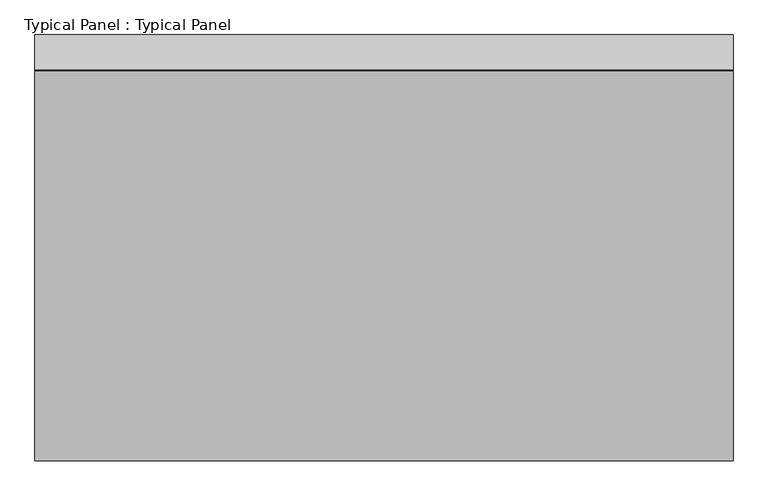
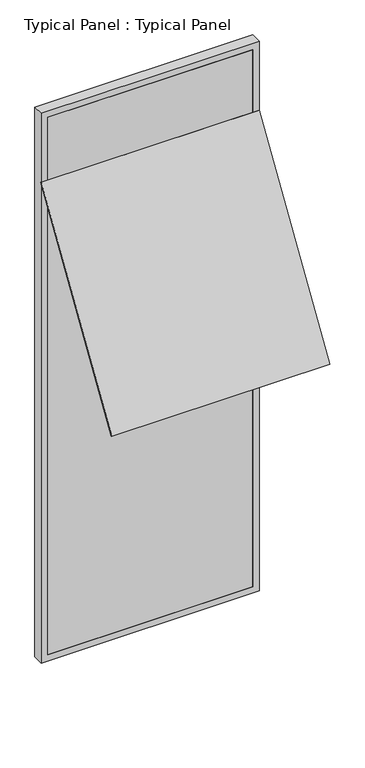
"""IFC4 building model written with IfcOpenShell, lengths in millimetres: plate geometry, Typical Panel : Typical Panel."""

from ifc_helpers import new_model, si_unit, frame, origin, place, context, project, spatial, polyline, outline, extrude, source, transform, mapped, element, save


def typical_panel_typical_panel_1dacabfa(model_context):
    return source(origin(), model_context, "Body", "SweptSolid", [
        extrude(outline(polyline([(0.0, -10.0000001), (0.0, 0.0), (1500.0, 0.0), (1500.0, -10.0000001), (0.0, -10.0000001)])), frame((750.0, -842.2724375, 2160.0840081), z_axis=(0.0, 0.5299192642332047, 0.8480480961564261), x_axis=(-1.0, 0.0, 0.0)), (0.0, 0.0, 1.0), 1580.0),
        extrude(outline(polyline([(0.0, -750.0), (0.0, 750.0), (4000.0, 750.0), (4000.0, -750.0), (0.0, -750.0)]), holes=[polyline([(45.0, 705.0), (45.0, -705.0), (3955.0, -705.0), (3955.0, 705.0), (45.0, 705.0)])]), frame((0.0, -1.5797986, 0.0), z_axis=(0.0, 1.0, 0.0), x_axis=(0.0, 0.0, 1.0)), (0.0, 0.0, 1.0), 75.0),
        extrude(outline(polyline([(705.0, -1.5797986), (-705.0, -1.5797986), (-705.0, 13.4202014), (705.0, 13.4202014), (705.0, -1.5797986)])), frame((0.0, 0.0, 45.0), z_axis=(0.0, 0.0, 1.0), x_axis=(1.0, 0.0, 0.0)), (0.0, 0.0, 1.0), 3910.0),
    ])


if __name__ == "__main__":
    model = new_model("IFC4")
    model_context = context("Model", 3, world=origin())
    ifc_project = project(units=[si_unit("LENGTHUNIT", "METRE", prefix="MILLI")], contexts=[model_context])
    site = spatial("IfcSite", under=ifc_project)
    building = spatial("IfcBuilding", under=site)
    placement = place(None, origin())
    typical_panel_typical_panel_shape = typical_panel_typical_panel_1dacabfa(model_context)
    element("IfcPlate", 1, ObjectType="Typical Panel : Typical Panel", at=placement, inside=building, context=model_context, shape_type="MappedRepresentation", body=[
        mapped(typical_panel_typical_panel_shape, transform((0.0, 0.0, 0.0), x_axis=(1.0, 0.0, 0.0), y_axis=(0.0, 1.0, 0.0), z_axis=(0.0, 0.0, 1.0))),
    ])
    save(model, "model.ifc")
